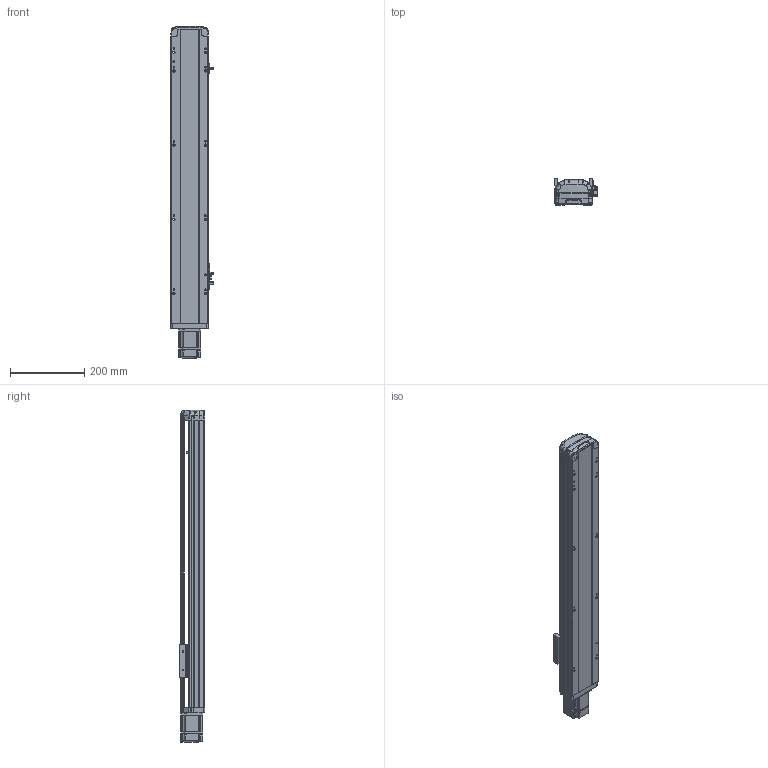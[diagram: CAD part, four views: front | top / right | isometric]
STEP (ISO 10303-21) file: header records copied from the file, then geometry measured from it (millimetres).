
FILE_DESCRIPTION (( 'STEP AP214' ), '1' );
FILE_NAME ('RTH10-XX-550-E-M20-C4.STEP', '2025-10-24T10:44:06', ( '' ), ( '' ), 'SwSTEP 2.0', 'SolidWorks 2018', '' );
FILE_SCHEMA (( 'AUTOMOTIVE_DESIGN' ));
Length unit declared in the file: millimetre
Products named in the file (9): N_RTH12-E-011P-臏倰第菁釱^RTH10-XX-XX-E-M20-C4ㄗ源最宒ㄘ; RTH10-XX-550-E-M20-C4; N_RTH13-L-012感应片外置^RTH10-XX-XX-E-M20-C4（方程式）; N_RTH12-E-008-M20电机板^RTH10-XX-XX-E-M20-C4（方程式）; N_RTH12-GY-004-滑座^RTH10-XX-XX-E-M20-C4（方程式）; N_200W-1^RTH10-XX-XX-E-M20-C4（方程式）; N_RTH12-E-007P-奻裔^RTH10-XX-XX-E-M20-C4ㄗ源最宒ㄘ; N_OMRON EE-SX672 換覜ん^RTH10-XX-XX-E-M20-C4ㄗ源最宒ㄘ; N_RTH12-GY-001P^RTH10-XX-XX-E-M20-C4（方程式）
Assembly tree (10 placements, depth 2):
  RTH10-XX-550-E-M20-C4
    N_RTH12-E-011P-臏倰第菁釱^RTH10-XX-XX-E-M20-C4ㄗ源最宒ㄘ
    N_RTH13-L-012感应片外置^RTH10-XX-XX-E-M20-C4（方程式）
    N_OMRON EE-SX672 換覜ん^RTH10-XX-XX-E-M20-C4ㄗ源最宒ㄘ  x3
    N_RTH12-E-007P-奻裔^RTH10-XX-XX-E-M20-C4ㄗ源最宒ㄘ
    N_RTH12-GY-001P^RTH10-XX-XX-E-M20-C4（方程式）
    N_RTH12-GY-004-滑座^RTH10-XX-XX-E-M20-C4（方程式）
    N_200W-1^RTH10-XX-XX-E-M20-C4（方程式）
    N_RTH12-E-008-M20电机板^RTH10-XX-XX-E-M20-C4（方程式）
Bounding box: 116.5 x 70 x 895.14 mm (x, y, z)
Volume: 3434210.8 mm3; surface area: 542360.2 mm2
Topology: 9 solids, 11 shells, 2008 faces, 5584 edges, 3666 vertices
Faces by surface type: plane 1008, cylinder 493, bspline 472, cone 33, torus 2
Entity records: 60434 total; most frequent: CARTESIAN_POINT 23530, ORIENTED_EDGE 8248, DIRECTION 6420, EDGE_CURVE 4130, VERTEX_POINT 2710, VECTOR 2228, LINE 2228, AXIS2_PLACEMENT_3D 2096
